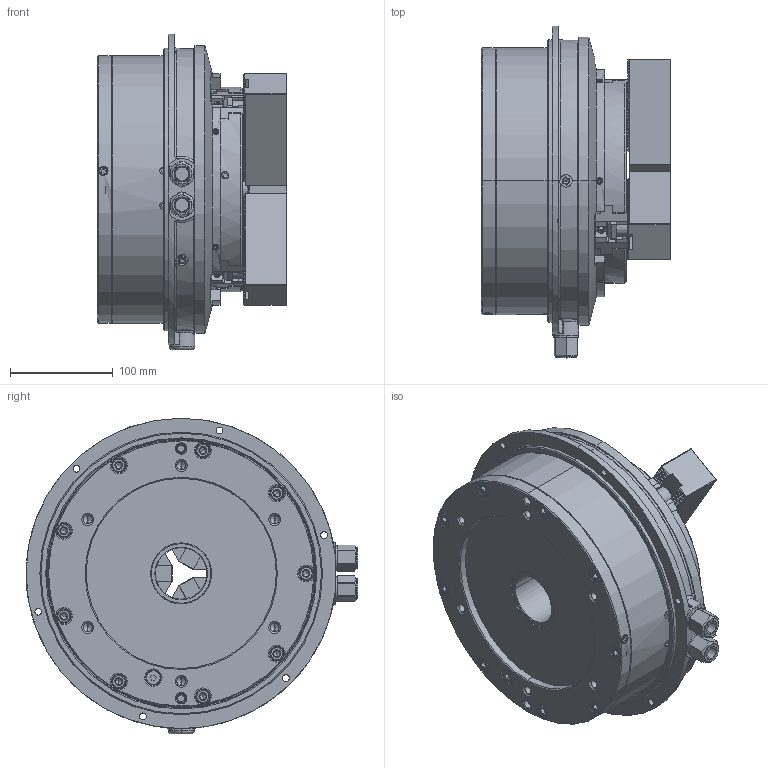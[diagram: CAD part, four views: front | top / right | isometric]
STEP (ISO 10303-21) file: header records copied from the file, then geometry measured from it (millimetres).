
FILE_DESCRIPTION (( 'STEP AP214' ), '1' );
FILE_NAME ('DEV-UVE200K-OC.STEP', '2024-10-02T23:53:33', ( '' ), ( '' ), 'SwSTEP 2.0', 'SolidWorks 2022', '' );
FILE_SCHEMA (( 'AUTOMOTIVE_DESIGN' ));
Length unit declared in the file: millimetre
Products named in the file (6): DEV-UVE200K-OC; Copy of 0030112030^DEV-UVE200K-クミタテ; Copy of 0693000003^DEV-UVE200K-クミタテ; Copy of 61P401335^DEV-UVE200K-クミタテ; Part1^DEV-UVE200K-クミタテ; Copy of P31633^DEV-UVE200K-クミタテ
Assembly tree (18 placements, depth 2):
  DEV-UVE200K-OC
    Copy of P31633^DEV-UVE200K-クミタテ  x3
    Copy of 61P401335^DEV-UVE200K-クミタテ  x6
    Copy of 0030112030^DEV-UVE200K-クミタテ  x6
    Copy of 0693000003^DEV-UVE200K-クミタテ  x2
    Part1^DEV-UVE200K-クミタテ
Bounding box: 184.45 x 323 x 307 mm (x, y, z)
Volume: 7175113.7 mm3; surface area: 491642.6 mm2
Topology: 18 solids, 47 shells, 4987 faces, 13825 edges, 9036 vertices
Faces by surface type: plane 3125, cylinder 978, cone 548, bspline 257, torus 59, sphere 20
Entity records: 137839 total; most frequent: CARTESIAN_POINT 43095, ORIENTED_EDGE 21404, DIRECTION 17249, EDGE_CURVE 10702, VERTEX_POINT 7021, VECTOR 6991, LINE 6991, AXIS2_PLACEMENT_3D 5129
